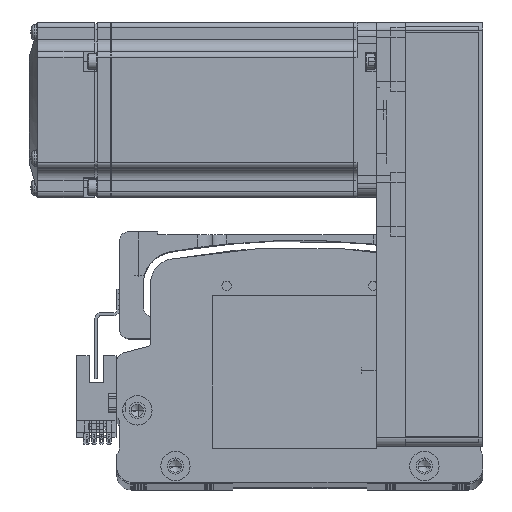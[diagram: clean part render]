
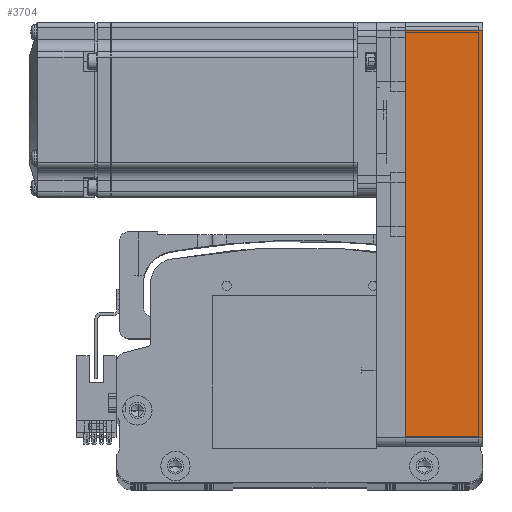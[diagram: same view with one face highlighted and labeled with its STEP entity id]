
A CAD part, top view. The second image highlights one B-rep face of the part: STEP entity #3704.
In plain terms, the highlighted planar face has unit normal (0, 0, 1) as drawn and (0, 1, 0) by its records, which use the part's own axes.
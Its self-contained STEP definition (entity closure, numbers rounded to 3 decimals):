
#3317 = ORIENTED_EDGE ( 'NONE', *, *, #11429, .T. ) ;
#3704 = ADVANCED_FACE ( 'NONE', ( #76739 ), #64019, .F. ) ;
#4761 = CARTESIAN_POINT ( 'NONE',  ( 72.5, 30., 26.5 ) ) ;
#7453 = DIRECTION ( 'NONE',  ( -1., 0., 0. ) ) ;
#7693 = DIRECTION ( 'NONE',  ( 0., 0., -1. ) ) ;
#7712 = VECTOR ( 'NONE', #50246, 1000. ) ;
#9259 = DIRECTION ( 'NONE',  ( 0., 0., 1. ) ) ;
#11429 = EDGE_CURVE ( 'NONE', #16133, #73455, #36651, .T. ) ;
#11449 = DIRECTION ( 'NONE',  ( 1., 0., 0. ) ) ;
#11576 = CARTESIAN_POINT ( 'NONE',  ( 69.5, 30., 0. ) ) ;
#12698 = AXIS2_PLACEMENT_3D ( 'NONE', #4761, #51047, #11449 ) ;
#14649 = VERTEX_POINT ( 'NONE', #24904 ) ;
#16133 = VERTEX_POINT ( 'NONE', #11576 ) ;
#20786 = CARTESIAN_POINT ( 'NONE',  ( 72.5, 30., 0. ) ) ;
#20934 = ORIENTED_EDGE ( 'NONE', *, *, #66536, .T. ) ;
#24904 = CARTESIAN_POINT ( 'NONE',  ( -69.5, 30., 26.5 ) ) ;
#25495 = LINE ( 'NONE', #68825, #38929 ) ;
#29408 = EDGE_CURVE ( 'NONE', #73455, #14649, #25495, .T. ) ;
#36651 = LINE ( 'NONE', #20786, #38746 ) ;
#36654 = CARTESIAN_POINT ( 'NONE',  ( 69.5, 30., 26.5 ) ) ;
#38746 = VECTOR ( 'NONE', #7453, 1000. ) ;
#38929 = VECTOR ( 'NONE', #9259, 1000. ) ;
#40729 = CARTESIAN_POINT ( 'NONE',  ( 69.5, 30., 26.5 ) ) ;
#43662 = CARTESIAN_POINT ( 'NONE',  ( 72.5, 30., 26.5 ) ) ;
#44125 = EDGE_CURVE ( 'NONE', #80363, #14649, #78076, .T. ) ;
#50246 = DIRECTION ( 'NONE',  ( -1., 0., 0. ) ) ;
#51047 = DIRECTION ( 'NONE',  ( 0., -1., 0. ) ) ;
#61153 = EDGE_LOOP ( 'NONE', ( #3317, #83546, #69544, #20934 ) ) ;
#64019 = PLANE ( 'NONE',  #12698 ) ;
#66536 = EDGE_CURVE ( 'NONE', #80363, #16133, #67580, .T. ) ;
#67580 = LINE ( 'NONE', #40729, #83088 ) ;
#68825 = CARTESIAN_POINT ( 'NONE',  ( -69.5, 30., 26.5 ) ) ;
#69544 = ORIENTED_EDGE ( 'NONE', *, *, #44125, .F. ) ;
#73455 = VERTEX_POINT ( 'NONE', #83709 ) ;
#76739 = FACE_OUTER_BOUND ( 'NONE', #61153, .T. ) ;
#78076 = LINE ( 'NONE', #43662, #7712 ) ;
#80363 = VERTEX_POINT ( 'NONE', #36654 ) ;
#83088 = VECTOR ( 'NONE', #7693, 1000. ) ;
#83546 = ORIENTED_EDGE ( 'NONE', *, *, #29408, .T. ) ;
#83709 = CARTESIAN_POINT ( 'NONE',  ( -69.5, 30., 0. ) ) ;
